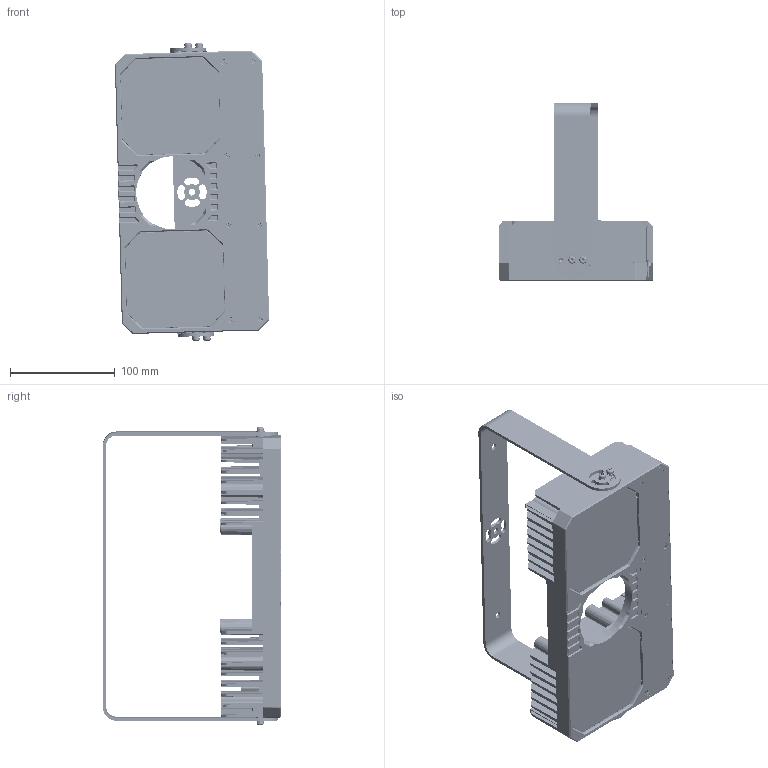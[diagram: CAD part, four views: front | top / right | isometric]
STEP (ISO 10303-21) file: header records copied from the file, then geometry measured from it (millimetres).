
FILE_DESCRIPTION((''),'2;1');
FILE_NAME('0002_ASM','2021-04-14T14:56:10',('mafangning'),(''),'CREO PARAMETRIC BY PTC INC, 2020044','CREO PARAMETRIC BY PTC INC, 2020044','');
FILE_SCHEMA(('CONFIG_CONTROL_DESIGN'));
Products named in the file (22): DE-13-000303; DE-19-000386; SC-T1M2X4NL_4_; SC-PA3X8-NI-JMP_; DE-11-007650; 101302581_; 101300687_; 101300547_; 101400155_; _2_000_ASM; 20002_ASM; DE-11-007672; DE-13-000304; SC-KM2_5X6B-JMF_4_; SC-PSFM4X10-SUS-GB9074_8; SC-PA3X8-NI-JMP; PRT0016_1; ASM0017_ASM_1_ASM; 20200818_ASM; SC-P0SFM2X5-GB9074_4; V923-00; 0002_ASM
Assembly tree (49 placements, depth 4):
  0002_ASM
    20002_ASM
      DE-13-000303
      DE-19-000386  x2
      SC-T1M2X4NL_4_  x8
      SC-PA3X8-NI-JMP_  x10
      DE-11-007650
      _2_000_ASM
        101302581_
        101300687_
        101300547_
        101400155_
    DE-11-007672
    DE-13-000304
    SC-KM2_5X6B-JMF_4_  x8
    SC-PSFM4X10-SUS-GB9074_8  x4
    SC-T1M2X4NL_4_
    SC-PA3X8-NI-JMP
    20200818_ASM
      ASM0017_ASM_1_ASM
        PRT0016_1
    SC-P0SFM2X5-GB9074_4
    V923-00
Bounding box: 147.58 x 170.5 x 285.29 mm (x, y, z)
Volume: 736728.1 mm3; surface area: 455044.5 mm2
Topology: 45 solids, 121 shells, 6448 faces, 17102 edges, 10842 vertices
Faces by surface type: plane 3744, cylinder 1335, cone 677, bspline 453, torus 204, sphere 26, extrusion 9
Entity records: 157551 total; most frequent: CARTESIAN_POINT 40409, ORIENTED_EDGE 24986, DIRECTION 23114, EDGE_CURVE 12582, VECTOR 8442, LINE 8433, VERTEX_POINT 8175, AXIS2_PLACEMENT_3D 7336
